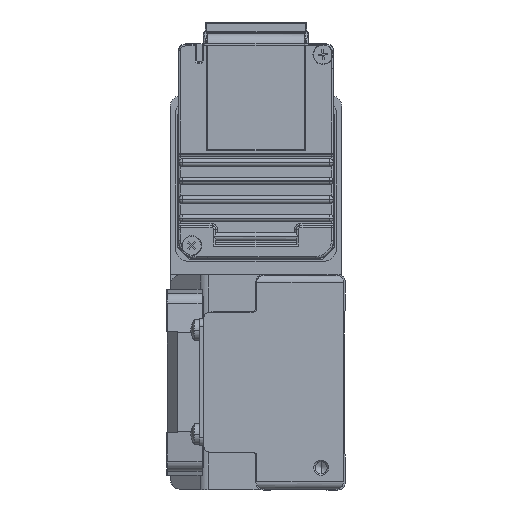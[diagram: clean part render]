
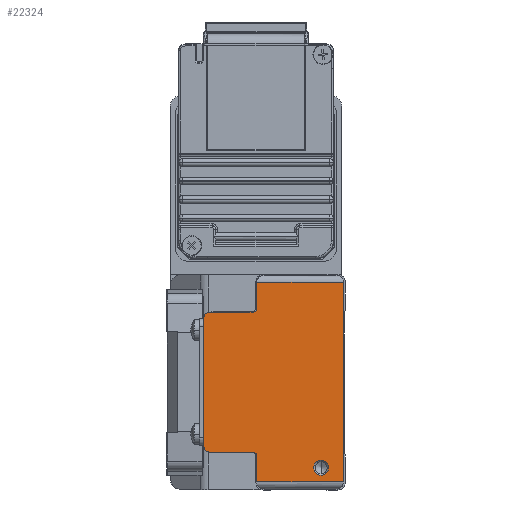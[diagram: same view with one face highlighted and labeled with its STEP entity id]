
A CAD part, left-side view. The second image highlights one B-rep face of the part: STEP entity #22324.
In plain terms, the highlighted planar face has unit normal (-1, 0, 0) as drawn and (0, 0, 1) by its records, which use the part's own axes.
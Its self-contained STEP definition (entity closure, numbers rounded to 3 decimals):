
#320 = ORIENTED_EDGE ( 'NONE', *, *, #9607, .T. ) ;
#1152 = ORIENTED_EDGE ( 'NONE', *, *, #26867, .F. ) ;
#1371 = DIRECTION ( 'NONE',  ( 0., 0., 1. ) ) ;
#2003 = VECTOR ( 'NONE', #14075, 1000. ) ;
#3000 = DIRECTION ( 'NONE',  ( -1., 0., 0. ) ) ;
#3511 = CIRCLE ( 'NONE', #26983, 1. ) ;
#3539 = LINE ( 'NONE', #7245, #40268 ) ;
#3696 = LINE ( 'NONE', #16852, #30202 ) ;
#4058 = ORIENTED_EDGE ( 'NONE', *, *, #18342, .T. ) ;
#4975 = EDGE_CURVE ( 'NONE', #21910, #38509, #42882, .T. ) ;
#5234 = ORIENTED_EDGE ( 'NONE', *, *, #19032, .T. ) ;
#5821 = ORIENTED_EDGE ( 'NONE', *, *, #10829, .F. ) ;
#7032 = VERTEX_POINT ( 'NONE', #23098 ) ;
#7245 = CARTESIAN_POINT ( 'NONE',  ( 17.3, 38., 720. ) ) ;
#7505 = AXIS2_PLACEMENT_3D ( 'NONE', #36725, #23167, #43852 ) ;
#8881 = VERTEX_POINT ( 'NONE', #31420 ) ;
#9059 = CARTESIAN_POINT ( 'NONE',  ( 18.8, 24.8, 720. ) ) ;
#9177 = CARTESIAN_POINT ( 'NONE',  ( -18.8, 36.5, 720. ) ) ;
#9607 = EDGE_CURVE ( 'NONE', #33905, #25481, #41562, .T. ) ;
#9655 = EDGE_CURVE ( 'NONE', #43351, #35828, #40553, .T. ) ;
#9763 = VECTOR ( 'NONE', #41267, 1000. ) ;
#10245 = CARTESIAN_POINT ( 'NONE',  ( -26.8, 23.8, 720. ) ) ;
#10671 = AXIS2_PLACEMENT_3D ( 'NONE', #30228, #38160, #33669 ) ;
#10829 = EDGE_CURVE ( 'NONE', #20847, #7032, #36182, .T. ) ;
#11448 = DIRECTION ( 'NONE',  ( -1., 0., 0. ) ) ;
#12360 = DIRECTION ( 'NONE',  ( 1., 0., 0. ) ) ;
#12710 = CARTESIAN_POINT ( 'NONE',  ( 18.8, 24.8, 720. ) ) ;
#13079 = CIRCLE ( 'NONE', #35174, 1.5 ) ;
#14075 = DIRECTION ( 'NONE',  ( 0., -1., 0. ) ) ;
#15081 = VECTOR ( 'NONE', #26742, 1000. ) ;
#15213 = CARTESIAN_POINT ( 'NONE',  ( -26.8, 21.8, 720. ) ) ;
#15843 = ORIENTED_EDGE ( 'NONE', *, *, #4975, .T. ) ;
#15922 = DIRECTION ( 'NONE',  ( 1., 0., 0. ) ) ;
#16702 = LINE ( 'NONE', #17135, #30514 ) ;
#16852 = CARTESIAN_POINT ( 'NONE',  ( -19.8, 23.8, 720. ) ) ;
#16982 = ORIENTED_EDGE ( 'NONE', *, *, #22322, .T. ) ;
#17135 = CARTESIAN_POINT ( 'NONE',  ( 26.8, 24., 720. ) ) ;
#17605 = DIRECTION ( 'NONE',  ( -1., 0., 0. ) ) ;
#17710 = ORIENTED_EDGE ( 'NONE', *, *, #37485, .T. ) ;
#18328 = AXIS2_PLACEMENT_3D ( 'NONE', #38846, #29452, #11448 ) ;
#18342 = EDGE_CURVE ( 'NONE', #21021, #43986, #13079, .T. ) ;
#18926 = CARTESIAN_POINT ( 'NONE',  ( 17.3, 38., 720. ) ) ;
#19032 = EDGE_CURVE ( 'NONE', #25481, #33905, #27884, .T. ) ;
#19161 = FACE_BOUND ( 'NONE', #44325, .T. ) ;
#19188 = EDGE_LOOP ( 'NONE', ( #17710, #5821, #25924, #27737, #16982, #1152, #36959, #31662, #37416, #4058, #30864, #15843 ) ) ;
#19203 = CARTESIAN_POINT ( 'NONE',  ( 19.8, 24.8, 720. ) ) ;
#19701 = VERTEX_POINT ( 'NONE', #12710 ) ;
#20155 = DIRECTION ( 'NONE',  ( 0., 0., 1. ) ) ;
#20845 = DIRECTION ( 'NONE',  ( 0., -1., 0. ) ) ;
#20847 = VERTEX_POINT ( 'NONE', #43024 ) ;
#21021 = VERTEX_POINT ( 'NONE', #38756 ) ;
#21163 = EDGE_CURVE ( 'NONE', #20847, #42753, #3696, .T. ) ;
#21910 = VERTEX_POINT ( 'NONE', #26178 ) ;
#22164 = EDGE_CURVE ( 'NONE', #19701, #21021, #27241, .T. ) ;
#22322 = EDGE_CURVE ( 'NONE', #41985, #8881, #29075, .T. ) ;
#22324 = ADVANCED_FACE ( 'NONE', ( #19161, #25625 ), #29761, .T. ) ;
#23098 = CARTESIAN_POINT ( 'NONE',  ( -18.8, 24.8, 720. ) ) ;
#23167 = DIRECTION ( 'NONE',  ( 0., 0., 1. ) ) ;
#24011 = CARTESIAN_POINT ( 'NONE',  ( -26.8, 24., 720. ) ) ;
#25481 = VERTEX_POINT ( 'NONE', #27187 ) ;
#25625 = FACE_OUTER_BOUND ( 'NONE', #19188, .T. ) ;
#25852 = DIRECTION ( 'NONE',  ( 1., 0., 0. ) ) ;
#25924 = ORIENTED_EDGE ( 'NONE', *, *, #21163, .T. ) ;
#26178 = CARTESIAN_POINT ( 'NONE',  ( -17.3, 38., 720. ) ) ;
#26289 = DIRECTION ( 'NONE',  ( 1., 0., 0. ) ) ;
#26742 = DIRECTION ( 'NONE',  ( -1., 0., 0. ) ) ;
#26867 = EDGE_CURVE ( 'NONE', #43351, #8881, #16702, .T. ) ;
#26983 = AXIS2_PLACEMENT_3D ( 'NONE', #19203, #1371, #15922 ) ;
#27187 = CARTESIAN_POINT ( 'NONE',  ( -25., 6.5, 720. ) ) ;
#27241 = LINE ( 'NONE', #9059, #9763 ) ;
#27587 = CARTESIAN_POINT ( 'NONE',  ( -26.8, 0.5, 720. ) ) ;
#27737 = ORIENTED_EDGE ( 'NONE', *, *, #40722, .T. ) ;
#27884 = CIRCLE ( 'NONE', #18328, 2. ) ;
#28168 = AXIS2_PLACEMENT_3D ( 'NONE', #40992, #43616, #45112 ) ;
#28503 = AXIS2_PLACEMENT_3D ( 'NONE', #15213, #28857, #25852 ) ;
#28574 = CARTESIAN_POINT ( 'NONE',  ( -18.8, 36.5, 720. ) ) ;
#28857 = DIRECTION ( 'NONE',  ( 0., 0., 1. ) ) ;
#29075 = LINE ( 'NONE', #29313, #34485 ) ;
#29225 = EDGE_CURVE ( 'NONE', #43986, #21910, #3539, .T. ) ;
#29313 = CARTESIAN_POINT ( 'NONE',  ( -26.8, 0.5, 720. ) ) ;
#29452 = DIRECTION ( 'NONE',  ( 0., 0., -1. ) ) ;
#29761 = PLANE ( 'NONE',  #28503 ) ;
#30202 = VECTOR ( 'NONE', #3000, 1000. ) ;
#30228 = CARTESIAN_POINT ( 'NONE',  ( -23., 6.5, 720. ) ) ;
#30514 = VECTOR ( 'NONE', #20845, 1000. ) ;
#30864 = ORIENTED_EDGE ( 'NONE', *, *, #29225, .T. ) ;
#31420 = CARTESIAN_POINT ( 'NONE',  ( 26.8, 0.5, 720. ) ) ;
#31662 = ORIENTED_EDGE ( 'NONE', *, *, #39957, .F. ) ;
#32013 = LINE ( 'NONE', #28574, #39982 ) ;
#33669 = DIRECTION ( 'NONE',  ( -1., 0., 0. ) ) ;
#33905 = VERTEX_POINT ( 'NONE', #38512 ) ;
#34485 = VECTOR ( 'NONE', #26289, 1000. ) ;
#34726 = CARTESIAN_POINT ( 'NONE',  ( 26.8, 23.8, 720. ) ) ;
#35174 = AXIS2_PLACEMENT_3D ( 'NONE', #41111, #20155, #12360 ) ;
#35828 = VERTEX_POINT ( 'NONE', #42454 ) ;
#36182 = CIRCLE ( 'NONE', #7505, 1. ) ;
#36725 = CARTESIAN_POINT ( 'NONE',  ( -19.8, 24.8, 720. ) ) ;
#36959 = ORIENTED_EDGE ( 'NONE', *, *, #9655, .T. ) ;
#37416 = ORIENTED_EDGE ( 'NONE', *, *, #22164, .T. ) ;
#37485 = EDGE_CURVE ( 'NONE', #38509, #7032, #32013, .T. ) ;
#37774 = LINE ( 'NONE', #24011, #2003 ) ;
#38160 = DIRECTION ( 'NONE',  ( 0., 0., -1. ) ) ;
#38509 = VERTEX_POINT ( 'NONE', #9177 ) ;
#38512 = CARTESIAN_POINT ( 'NONE',  ( -21., 6.5, 720. ) ) ;
#38756 = CARTESIAN_POINT ( 'NONE',  ( 18.8, 36.5, 720. ) ) ;
#38846 = CARTESIAN_POINT ( 'NONE',  ( -23., 6.5, 720. ) ) ;
#39957 = EDGE_CURVE ( 'NONE', #19701, #35828, #3511, .T. ) ;
#39982 = VECTOR ( 'NONE', #42592, 1000. ) ;
#40268 = VECTOR ( 'NONE', #17605, 1000. ) ;
#40553 = LINE ( 'NONE', #44231, #15081 ) ;
#40722 = EDGE_CURVE ( 'NONE', #42753, #41985, #37774, .T. ) ;
#40992 = CARTESIAN_POINT ( 'NONE',  ( -17.3, 36.5, 720. ) ) ;
#41111 = CARTESIAN_POINT ( 'NONE',  ( 17.3, 36.5, 720. ) ) ;
#41267 = DIRECTION ( 'NONE',  ( 0., 1., 0. ) ) ;
#41562 = CIRCLE ( 'NONE', #10671, 2. ) ;
#41985 = VERTEX_POINT ( 'NONE', #27587 ) ;
#42454 = CARTESIAN_POINT ( 'NONE',  ( 19.8, 23.8, 720. ) ) ;
#42592 = DIRECTION ( 'NONE',  ( 0., -1., 0. ) ) ;
#42753 = VERTEX_POINT ( 'NONE', #10245 ) ;
#42882 = CIRCLE ( 'NONE', #28168, 1.5 ) ;
#43024 = CARTESIAN_POINT ( 'NONE',  ( -19.8, 23.8, 720. ) ) ;
#43351 = VERTEX_POINT ( 'NONE', #34726 ) ;
#43616 = DIRECTION ( 'NONE',  ( 0., 0., 1. ) ) ;
#43852 = DIRECTION ( 'NONE',  ( 1., 0., 0. ) ) ;
#43986 = VERTEX_POINT ( 'NONE', #18926 ) ;
#44231 = CARTESIAN_POINT ( 'NONE',  ( 26.8, 23.8, 720. ) ) ;
#44325 = EDGE_LOOP ( 'NONE', ( #5234, #320 ) ) ;
#45112 = DIRECTION ( 'NONE',  ( 1., 0., 0. ) ) ;
